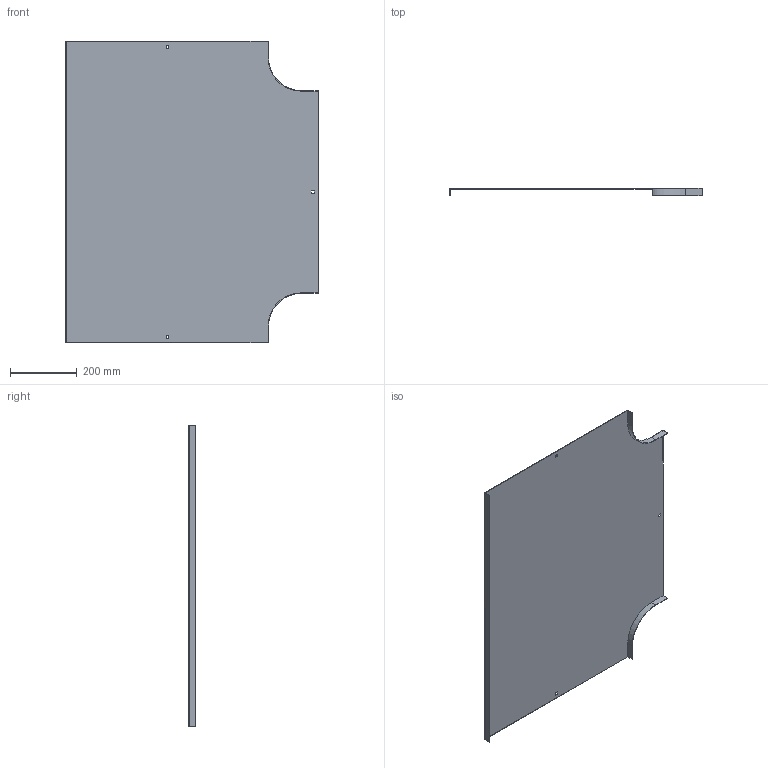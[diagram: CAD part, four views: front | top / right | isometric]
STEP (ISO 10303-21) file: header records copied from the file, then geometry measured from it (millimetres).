
FILE_DESCRIPTION (( 'STEP AP214' ), '1' );
FILE_NAME ('15N1R600.step', '2025-02-21T09:52:19', ( '' ), ( '' ), 'SwSTEP 2.0', 'SolidWorks 2023', '' );
FILE_SCHEMA (( 'AUTOMOTIVE_DESIGN' ));
Length unit declared in the file: millimetre
Products named in the file (1): 15N1R600
Bounding box: 755.5 x 20 x 904 mm (x, y, z)
Volume: 1003572.9 mm3; surface area: 1343254.9 mm2
Topology: 1 solids, 1 shells, 34 faces, 96 edges, 64 vertices
Faces by surface type: plane 30, cylinder 4
Entity records: 1123 total; most frequent: CARTESIAN_POINT 195, ORIENTED_EDGE 192, DIRECTION 174, EDGE_CURVE 96, LINE 88, VECTOR 88, VERTEX_POINT 64, AXIS2_PLACEMENT_3D 43
